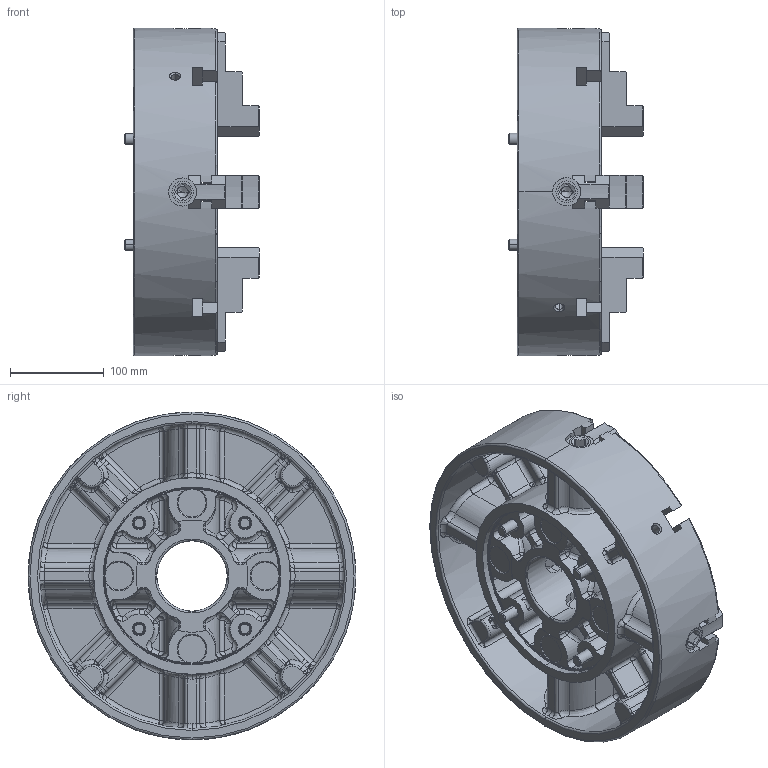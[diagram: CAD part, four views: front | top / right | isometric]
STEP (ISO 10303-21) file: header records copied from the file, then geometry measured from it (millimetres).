
FILE_DESCRIPTION (( 'STEP AP214' ), '1' );
FILE_NAME ('IC-14_61T203811-7.STEP', '2025-11-17T00:05:18', ( '' ), ( '' ), 'SwSTEP 2.0', 'SolidWorks 2022', '' );
FILE_SCHEMA (( 'AUTOMOTIVE_DESIGN' ));
Length unit declared in the file: millimetre
Products named in the file (4): IC-14_ホンタイ提出用; IC-14_61T203811-7; 0030112085; 61T301348-1_ツメ
Assembly tree (9 placements, depth 2):
  IC-14_61T203811-7
    61T301348-1_ツメ  x4
    0030112085  x4
    IC-14_ホンタイ提出用
Bounding box: 144 x 350 x 350 mm (x, y, z)
Volume: 5112218.9 mm3; surface area: 702106.6 mm2
Topology: 9 solids, 9 shells, 1827 faces, 4670 edges, 2818 vertices
Faces by surface type: plane 646, cylinder 440, bspline 269, cone 180, torus 160, sphere 132
Entity records: 63195 total; most frequent: CARTESIAN_POINT 25267, ORIENTED_EDGE 8216, DIRECTION 7604, EDGE_CURVE 4108, AXIS2_PLACEMENT_3D 2947, VERTEX_POINT 2503, EDGE_LOOP 1723, VECTOR 1710
